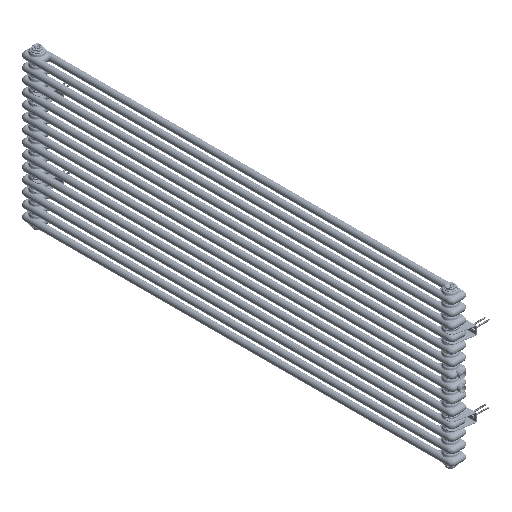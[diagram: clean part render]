
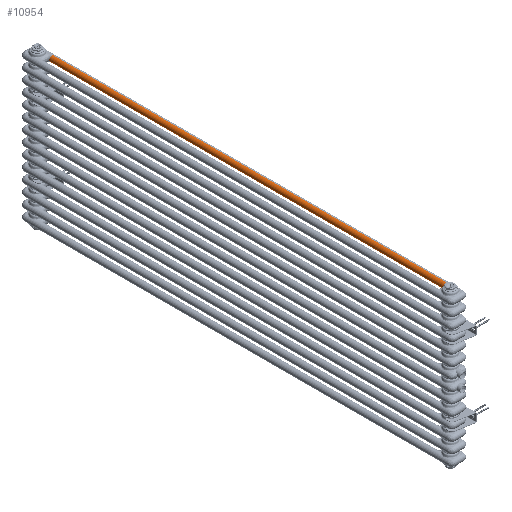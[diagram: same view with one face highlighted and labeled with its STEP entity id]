
A CAD part, isometric view. The second image highlights one B-rep face of the part: STEP entity #10954.
In plain terms, the highlighted cylindrical face has radius 12.5 mm (diameter 25 mm), a partial arc.
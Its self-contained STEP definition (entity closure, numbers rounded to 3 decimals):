
#10954=ADVANCED_FACE('',(#16596),#13226,.T.);
#13226=CYLINDRICAL_SURFACE('',#78333,12.5);
#16596=FACE_OUTER_BOUND('',#21333,.T.);
#21333=EDGE_LOOP('',(#41606,#41607,#41608,#41609,#41610,#41611));
#26109=CIRCLE('',#78314,12.5);
#26111=CIRCLE('',#78317,12.5);
#26119=CIRCLE('',#78331,12.5);
#26120=CIRCLE('',#78332,12.5);
#41606=ORIENTED_EDGE('',*,*,#63606,.F.);
#41607=ORIENTED_EDGE('',*,*,#63607,.F.);
#41608=ORIENTED_EDGE('',*,*,#63608,.F.);
#41609=ORIENTED_EDGE('',*,*,#63598,.F.);
#41610=ORIENTED_EDGE('',*,*,#63585,.T.);
#41611=ORIENTED_EDGE('',*,*,#63583,.T.);
#54032=VERTEX_POINT('',#224338);
#54033=VERTEX_POINT('',#224340);
#54034=VERTEX_POINT('',#224344);
#54038=VERTEX_POINT('',#224662);
#54045=VERTEX_POINT('',#224733);
#54046=VERTEX_POINT('',#224737);
#63583=EDGE_CURVE('',#54033,#54032,#26109,.T.);
#63585=EDGE_CURVE('',#54034,#54033,#26111,.T.);
#63598=EDGE_CURVE('',#54034,#54038,#69363,.T.);
#63606=EDGE_CURVE('',#54045,#54032,#69368,.T.);
#63607=EDGE_CURVE('',#54046,#54045,#26119,.T.);
#63608=EDGE_CURVE('',#54038,#54046,#26120,.T.);
#69363=LINE('',#224661,#72138);
#69368=LINE('',#224734,#72143);
#72138=VECTOR('',#92614,1.);
#72143=VECTOR('',#92621,1.);
#78314=AXIS2_PLACEMENT_3D('',#224339,#92580,#92581);
#78317=AXIS2_PLACEMENT_3D('',#224343,#92586,#92587);
#78331=AXIS2_PLACEMENT_3D('',#224736,#92624,#92625);
#78332=AXIS2_PLACEMENT_3D('',#224738,#92626,#92627);
#78333=AXIS2_PLACEMENT_3D('',#224739,#92628,#92629);
#92580=DIRECTION('',(0.,1.,0.));
#92581=DIRECTION('',(-1.,0.,0.));
#92586=DIRECTION('',(0.,1.,0.));
#92587=DIRECTION('',(0.,0.,-1.));
#92614=DIRECTION('',(0.,1.,0.));
#92621=DIRECTION('',(0.,-1.,0.));
#92624=DIRECTION('',(0.,1.,0.));
#92625=DIRECTION('',(-1.,0.,0.));
#92626=DIRECTION('',(0.,1.,0.));
#92627=DIRECTION('',(0.,0.,-1.));
#92628=DIRECTION('',(0.,1.,0.));
#92629=DIRECTION('',(0.,0.,1.));
#224338=CARTESIAN_POINT('',(57.5,79.5,2040.));
#224339=CARTESIAN_POINT('',(57.5,79.5,2027.5));
#224340=CARTESIAN_POINT('',(45.,79.5,2027.5));
#224343=CARTESIAN_POINT('',(57.5,79.5,2027.5));
#224344=CARTESIAN_POINT('',(57.5,79.5,2015.));
#224661=CARTESIAN_POINT('',(57.5,79.5,2015.));
#224662=CARTESIAN_POINT('',(57.5,1723.5,2015.));
#224733=CARTESIAN_POINT('',(57.5,1723.5,2040.));
#224734=CARTESIAN_POINT('',(57.5,523.5,2040.));
#224736=CARTESIAN_POINT('',(57.5,1723.5,2027.5));
#224737=CARTESIAN_POINT('',(45.,1723.5,2027.5));
#224738=CARTESIAN_POINT('',(57.5,1723.5,2027.5));
#224739=CARTESIAN_POINT('',(57.5,79.5,2027.5));
